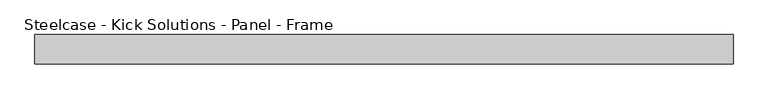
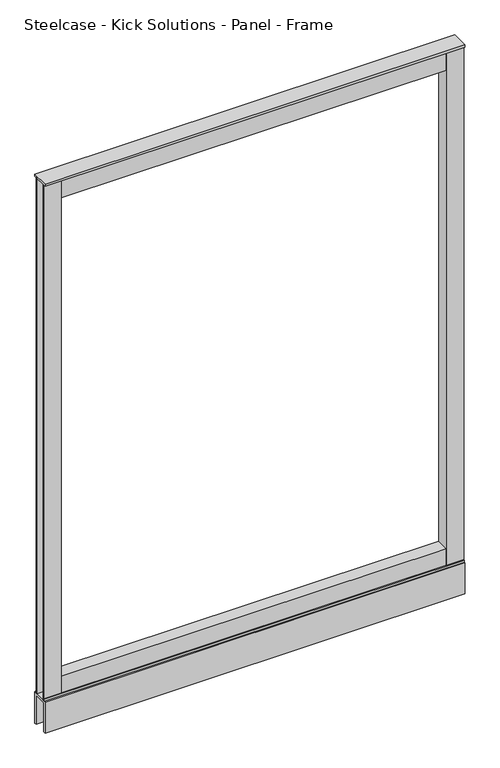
"""IFC4 building model written with IfcOpenShell, lengths in millimetres: furniture geometry, Steelcase - Kick Solutions - Panel - Frame : 66H x 48W."""

from ifc_helpers import new_model, si_unit, frame, origin, place, context, project, spatial, polyline, outline, extrude, source, transform, mapped, element, save


def steelcase_kick_solutions_panel_frame_999e7460(model_context):
    return source(origin(), model_context, "Body", "SweptSolid", [
        extrude(outline(polyline([(50.8006646, 6.3506854), (50.8006646, -31.7493123), (0.0, -31.7493123), (0.0, -29.2093123), (48.2606646, -29.2093123), (48.2606646, 3.8106854), (0.0, 3.8106854), (0.0, 6.3506854), (50.8006646, 6.3506854)])), frame((0.0, 0.0, 95.25), z_axis=(0.0, 0.0, 1.0), x_axis=(1.0, 0.0, 0.0)), (0.0, 0.0, 1.0), 1581.15),
        extrude(outline(polyline([(1168.4006661, 6.3506854), (1219.2, 6.3506854), (1219.2, 3.8106854), (1170.9393354, 3.8106854), (1170.9393354, -29.2093123), (1219.2, -29.2093123), (1219.2, -31.7493123), (1168.4006661, -31.7493123), (1168.4006661, 6.3506854)])), frame((0.0, 0.0, 95.25), z_axis=(0.0, 0.0, 1.0), x_axis=(1.0, 0.0, 0.0)), (0.0, 0.0, 1.0), 1581.15),
        extrude(outline(polyline([(6.3506854, 101.600003), (9.5256855, 101.600003), (9.5256855, 95.25), (8.409661, 95.25), (8.409661, 100.2902081), (6.3506854, 100.2902081), (6.3506854, 101.600003)])), frame((0.0, 0.0, 0.0), z_axis=(1.0, 0.0, 0.0), x_axis=(0.0, 1.0, 0.0)), (0.0, 0.0, 1.0), 1219.2),
        extrude(outline(polyline([(-34.9243138, 101.600003), (-31.7493123, 101.600003), (-31.7493123, 100.2902081), (-33.8479845, 100.2902081), (-33.8479845, 95.25), (-34.9243138, 95.25), (-34.9243138, 101.600003)])), frame((0.0, 0.0, 0.0), z_axis=(1.0, 0.0, 0.0), x_axis=(0.0, 1.0, 0.0)), (0.0, 0.0, 1.0), 1219.2),
        extrude(outline(polyline([(1168.4006661, -31.7493123), (50.8006646, -31.7493123), (50.8006646, 6.3506854), (1168.4006661, 6.3506854), (1168.4006661, -31.7493123)])), frame((0.0, 0.0, 1619.2500242), z_axis=(0.0, 0.0, 1.0), x_axis=(1.0, 0.0, 0.0)), (0.0, 0.0, 1.0), 57.1499758),
        extrude(outline(polyline([(1168.4006661, -31.7493123), (50.8006646, -31.7493123), (50.8006646, 6.3506854), (1168.4006661, 6.3506854), (1168.4006661, -31.7493123)])), frame((0.0, 0.0, 95.25), z_axis=(0.0, 0.0, 1.0), x_axis=(1.0, 0.0, 0.0)), (0.0, 0.0, 1.0), 57.15),
        extrude(outline(polyline([(1219.2, 12.7000004), (1219.2, -38.1000011), (0.0, -38.1000011), (0.0, 12.7000004), (1219.2, 12.7000004)])), frame((0.0, 0.0, 1676.4), z_axis=(0.0, 0.0, 1.0), x_axis=(1.0, 0.0, 0.0)), (0.0, 0.0, 1.0), 6.35),
        extrude(outline(polyline([(-38.1000011, 95.25), (12.7000004, 95.25), (12.7000004, 0.0), (6.3506854, 0.0), (6.3506854, 88.9), (-31.7493123, 88.9), (-31.7493123, 0.0), (-38.1000011, 0.0), (-38.1000011, 95.25)])), frame((0.0, 0.0, 0.0), z_axis=(1.0, 0.0, 0.0), x_axis=(0.0, 1.0, 0.0)), (0.0, 0.0, 1.0), 1219.2),
    ])


if __name__ == "__main__":
    model = new_model("IFC4")
    model_context = context("Model", 3, world=origin())
    ifc_project = project(units=[si_unit("LENGTHUNIT", "METRE", prefix="MILLI")], contexts=[model_context])
    site = spatial("IfcSite", under=ifc_project)
    building = spatial("IfcBuilding", under=site)
    placement = place(None, origin())
    steelcase_kick_solutions_panel_frame_shape = steelcase_kick_solutions_panel_frame_999e7460(model_context)
    element("IfcFurniture", 1, ObjectType="Steelcase - Kick Solutions - Panel - Frame : 66H x 48W", at=placement, inside=building, context=model_context, shape_type="MappedRepresentation", body=[
        mapped(steelcase_kick_solutions_panel_frame_shape, transform((0.0, 0.0, 0.0), x_axis=(1.0, 0.0, 0.0), y_axis=(0.0, 1.0, 0.0), z_axis=(0.0, 0.0, 1.0))),
    ])
    save(model, "model.ifc")
